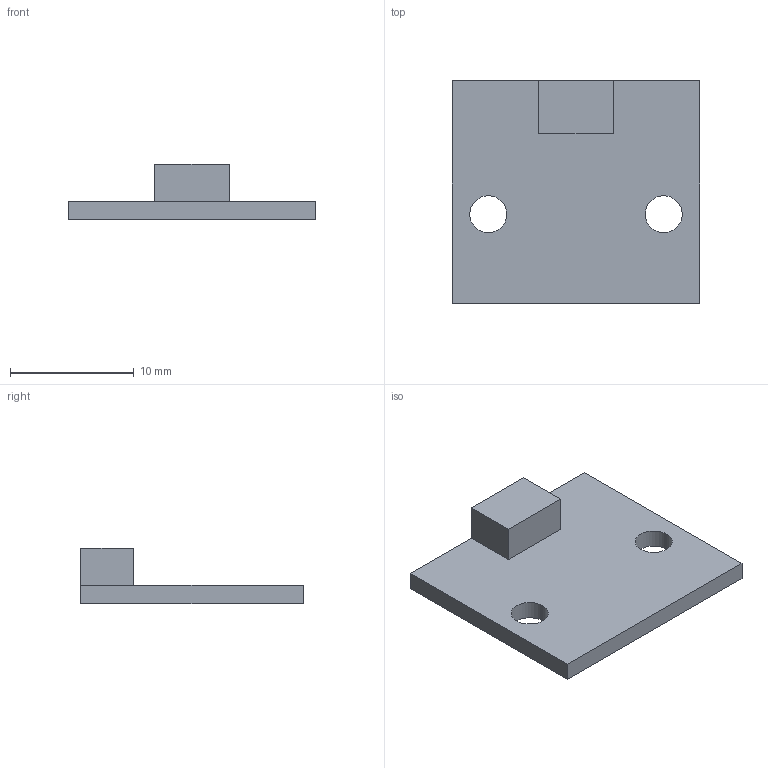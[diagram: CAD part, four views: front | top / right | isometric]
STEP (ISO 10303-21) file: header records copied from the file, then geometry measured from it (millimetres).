
FILE_DESCRIPTION(/* description */ (''),/* implementation_level */ '2;1');
FILE_NAME(/* name */ 'C:/Users/Андрей/YandexDisk/модельки/Controllers_SBGC/Sensor_I2c.step',/* time_stamp */ '2020-10-20T17:35:52+03:00',/* author */ (''),/* organization */ (''),/* preprocessor_version */ 'ST-DEVELOPER v18.1',/* originating_system */ 'Autodesk Translation Framework v9.3.0.1241',/* authorisation */ '');
FILE_SCHEMA (('AUTOMOTIVE_DESIGN { 1 0 10303 214 3 1 1 }'));
Length unit declared in the file: millimetre
Products named in the file (1): Sensor_I2c
Bounding box: 20 x 18 x 4.5 mm (x, y, z)
Volume: 595.3 mm3; surface area: 946.5 mm2
Topology: 2 solids, 2 shells, 14 faces, 30 edges, 20 vertices
Faces by surface type: plane 12, cylinder 2
Full cylindrical faces by diameter (mm): 3 x2
Entity records: 425 total; most frequent: CARTESIAN_POINT 65, DIRECTION 64, ORIENTED_EDGE 60, EDGE_CURVE 30, LINE 26, VECTOR 26, VERTEX_POINT 20, AXIS2_PLACEMENT_3D 19
